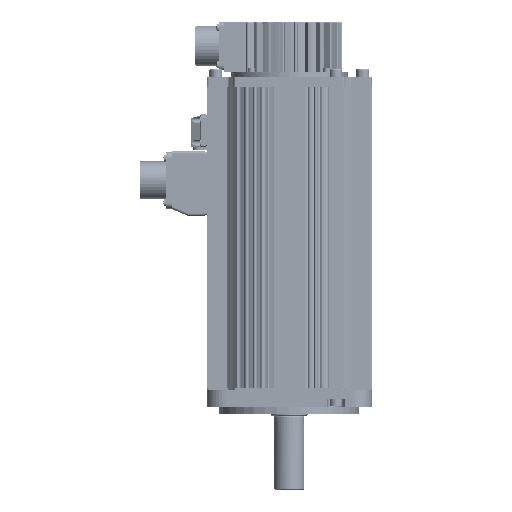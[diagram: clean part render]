
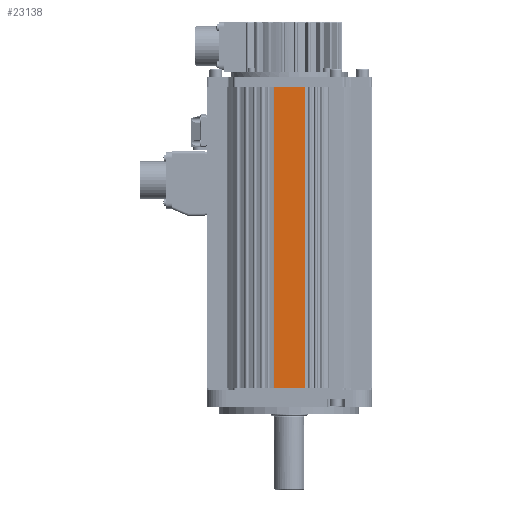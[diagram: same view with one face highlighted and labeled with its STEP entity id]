
A CAD part, left-side view. The second image highlights one B-rep face of the part: STEP entity #23138.
In plain terms, the highlighted planar face has unit normal (-1, 0, 0) as drawn and (0, 1, 0) by its records, which use the part's own axes.
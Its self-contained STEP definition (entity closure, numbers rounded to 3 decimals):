
#6662=DIRECTION('',(0.,0.,-1.));
#6663=VECTOR('',#6662,24.632);
#6664=CARTESIAN_POINT('',(237.,65.,12.3));
#6665=LINE('',#6664,#6663);
#9584=DIRECTION('',(1.,0.,0.));
#9585=VECTOR('',#9584,237.);
#9586=CARTESIAN_POINT('',(0.,65.,12.3));
#9587=LINE('',#9586,#9585);
#9588=DIRECTION('',(0.,0.,-1.));
#9589=VECTOR('',#9588,24.632);
#9590=CARTESIAN_POINT('',(0.,65.,12.3));
#9591=LINE('',#9590,#9589);
#9596=DIRECTION('',(-1.,0.,0.));
#9597=VECTOR('',#9596,237.);
#9598=CARTESIAN_POINT('',(237.,65.,-12.332));
#9599=LINE('',#9598,#9597);
#11107=CARTESIAN_POINT('',(0.,65.,-12.332));
#11108=VERTEX_POINT('',#11107);
#11109=CARTESIAN_POINT('',(0.,65.,12.3));
#11110=VERTEX_POINT('',#11109);
#13212=CARTESIAN_POINT('',(237.,65.,12.3));
#13213=VERTEX_POINT('',#13212);
#13214=CARTESIAN_POINT('',(237.,65.,-12.332));
#13215=VERTEX_POINT('',#13214);
#23126=CARTESIAN_POINT('',(0.,65.,-65.));
#23127=DIRECTION('',(0.,1.,0.));
#23128=DIRECTION('',(0.,0.,1.));
#23129=AXIS2_PLACEMENT_3D('',#23126,#23127,#23128);
#23130=PLANE('',#23129);
#23132=ORIENTED_EDGE('',*,*,#23131,.F.);
#23133=ORIENTED_EDGE('',*,*,#16216,.F.);
#23134=ORIENTED_EDGE('',*,*,#23121,.F.);
#23135=ORIENTED_EDGE('',*,*,#13904,.T.);
#23136=EDGE_LOOP('',(#23132,#23133,#23134,#23135));
#23137=FACE_OUTER_BOUND('',#23136,.F.);
#23138=ADVANCED_FACE('',(#23137),#23130,.T.);
#13904=EDGE_CURVE('',#11110,#11108,#9591,.T.);
#16216=EDGE_CURVE('',#13213,#13215,#6665,.T.);
#23121=EDGE_CURVE('',#11110,#13213,#9587,.T.);
#23131=EDGE_CURVE('',#13215,#11108,#9599,.T.);
